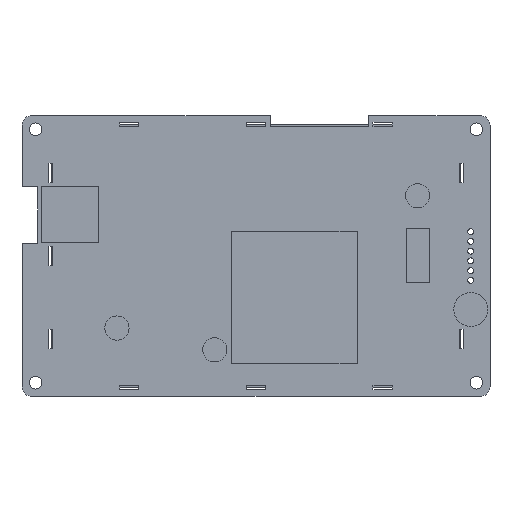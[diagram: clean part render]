
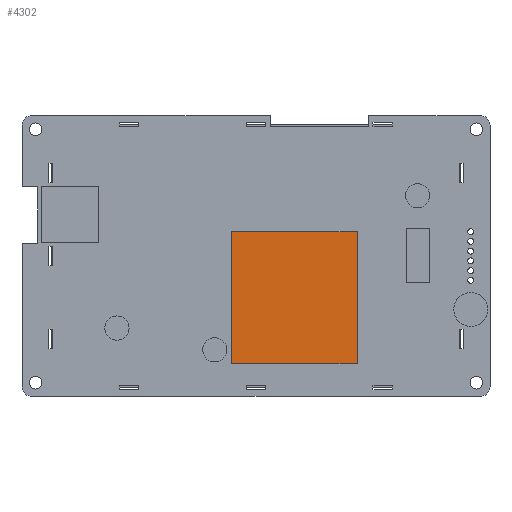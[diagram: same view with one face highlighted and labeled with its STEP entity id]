
A CAD part, front view. The second image highlights one B-rep face of the part: STEP entity #4302.
In plain terms, the highlighted planar face has unit normal (0, -1, 0).
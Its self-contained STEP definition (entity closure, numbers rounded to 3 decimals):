
#1519=DIRECTION('',(-1.,0.,0.));
#1520=VECTOR('',#1519,32.766);
#1521=CARTESIAN_POINT('',(26.34,-6.9,6.312));
#1522=LINE('',#1521,#1520);
#1531=DIRECTION('',(0.,0.,1.));
#1532=VECTOR('',#1531,34.417);
#1533=CARTESIAN_POINT('',(26.34,-6.9,-28.105));
#1534=LINE('',#1533,#1532);
#1539=DIRECTION('',(1.,0.,0.));
#1540=VECTOR('',#1539,32.766);
#1541=CARTESIAN_POINT('',(-6.426,-6.9,-28.105));
#1542=LINE('',#1541,#1540);
#1543=DIRECTION('',(0.,0.,-1.));
#1544=VECTOR('',#1543,34.417);
#1545=CARTESIAN_POINT('',(-6.426,-6.9,6.312));
#1546=LINE('',#1545,#1544);
#2049=CARTESIAN_POINT('',(26.34,-6.9,6.312));
#2050=VERTEX_POINT('',#2049);
#2051=CARTESIAN_POINT('',(-6.426,-6.9,6.312));
#2052=VERTEX_POINT('',#2051);
#2053=CARTESIAN_POINT('',(26.34,-6.9,-28.105));
#2054=VERTEX_POINT('',#2053);
#2055=CARTESIAN_POINT('',(-6.426,-6.9,-28.105));
#2056=VERTEX_POINT('',#2055);
#4291=CARTESIAN_POINT('',(9.957,-6.9,-10.897));
#4292=DIRECTION('',(0.,1.,0.));
#4293=DIRECTION('',(-1.,0.,0.));
#4294=AXIS2_PLACEMENT_3D('',#4291,#4292,#4293);
#4295=PLANE('',#4294);
#4296=ORIENTED_EDGE('',*,*,#4243,.F.);
#4297=ORIENTED_EDGE('',*,*,#4258,.F.);
#4298=ORIENTED_EDGE('',*,*,#4272,.F.);
#4299=ORIENTED_EDGE('',*,*,#4285,.F.);
#4300=EDGE_LOOP('',(#4296,#4297,#4298,#4299));
#4301=FACE_OUTER_BOUND('',#4300,.F.);
#4243=EDGE_CURVE('',#2050,#2052,#1522,.T.);
#4258=EDGE_CURVE('',#2054,#2050,#1534,.T.);
#4272=EDGE_CURVE('',#2056,#2054,#1542,.T.);
#4285=EDGE_CURVE('',#2052,#2056,#1546,.T.);
#4302=ADVANCED_FACE('',(#4301),#4295,.F.);
